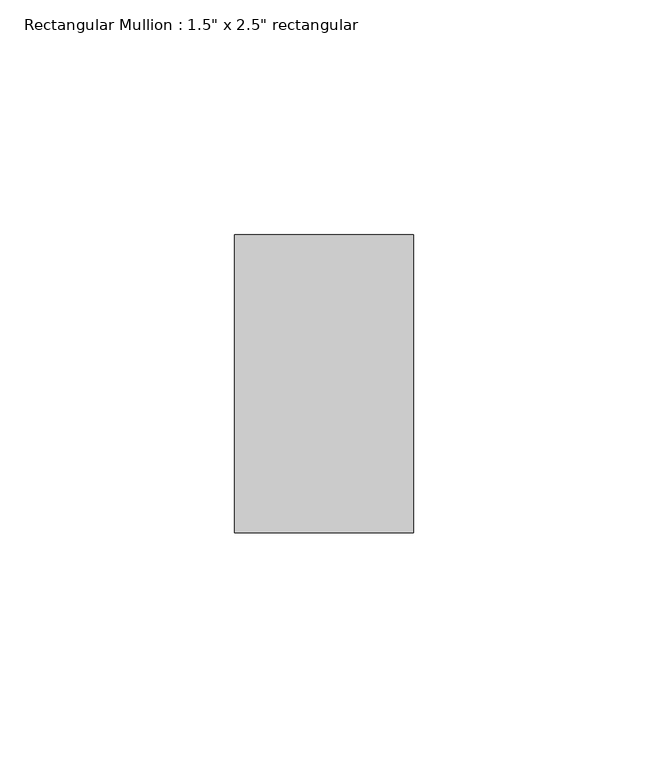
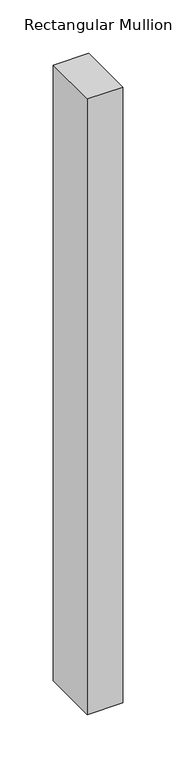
"""IFC4 building model written with IfcOpenShell, lengths in millimetres: member geometry."""

from ifc_helpers import new_model, si_unit, frame, origin, place, context, project, spatial, polyline, outline, extrude, source, transform, mapped, element, save


def member_64ad3ddf(model_context):
    return source(origin(), model_context, "Body", "SweptSolid", [
        extrude(outline(polyline([(0.0, 31.75), (0.0, -31.75), (-38.1, -31.75), (-38.1, 31.75), (0.0, 31.75)])), frame((0.0, 0.0, -703.9908168), z_axis=(0.0, 0.0, 1.0), x_axis=(1.0, 0.0, 0.0)), (0.0, 0.0, 1.0), 703.9908168),
    ])


if __name__ == "__main__":
    model = new_model("IFC4")
    model_context = context("Model", 3, world=origin())
    ifc_project = project(units=[si_unit("LENGTHUNIT", "METRE", prefix="MILLI")], contexts=[model_context])
    site = spatial("IfcSite", under=ifc_project)
    building = spatial("IfcBuilding", under=site)
    placement = place(None, origin())
    member_shape = member_64ad3ddf(model_context)
    element("IfcMember", 1, ObjectType="Rectangular Mullion : 1.5\" x 2.5\" rectangular", at=placement, inside=building, context=model_context, shape_type="MappedRepresentation", body=[
        mapped(member_shape, transform((0.0, 0.0, 0.0), x_axis=(1.0, 0.0, 0.0), y_axis=(0.0, 1.0, 0.0), z_axis=(0.0, 0.0, 1.0))),
    ])
    save(model, "model.ifc")
